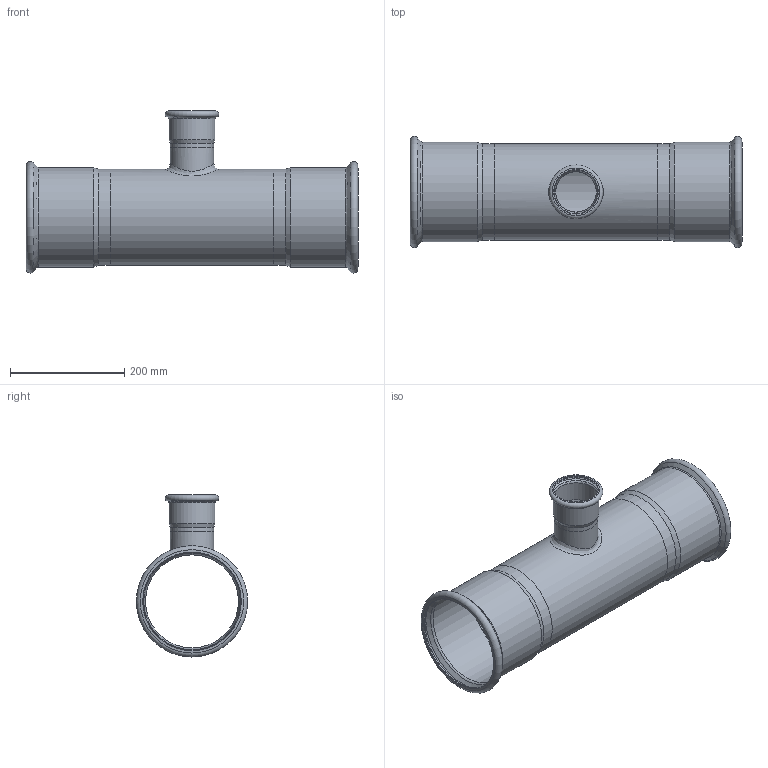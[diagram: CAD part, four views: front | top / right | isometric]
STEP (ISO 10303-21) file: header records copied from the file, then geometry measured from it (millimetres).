
FILE_DESCRIPTION((''),'2;1');
FILE_NAME('G:\Nirosan-Schmiedefeld\Technics\CAD\001 Serie 9.000\169_va\6913016876168H(0).stp','2020-10-06T09:38:00',('herberg'),(''),'Autodesk Inventor 2009','Autodesk Inventor 2009','');
FILE_SCHEMA(('AUTOMOTIVE_DESIGN { 1 0 10303 214 1 1 1 1 }'));
Length unit declared in the file: millimetre
Products named in the file (4): 6913016876168H(0); 6913016876168P(0); 69HM168P(0); 69HM76P(0)
Assembly tree (4 placements, depth 2):
  6913016876168H(0)
    6913016876168P(0)
    69HM168P(0)  x2
    69HM76P(0)
Bounding box: 582 x 195.18 x 284.09 mm (x, y, z)
Volume: 885324 mm3; surface area: 699096.9 mm2
Topology: 4 solids, 4 shells, 59 faces, 114 edges, 63 vertices
Faces by surface type: cone 20, cylinder 17, bspline 8, plane 8, torus 6
Full cylindrical faces by diameter (mm): 70.9 x1, 72.1 x1, 76.1 x2, 76.6 x1, 78 x1, 80.6 x1, 163.1 x3, 168.3 x3, 169.3 x2, 174.5 x2
Entity records: 3473 total; most frequent: CARTESIAN_POINT 2639, DIRECTION 168, ORIENTED_EDGE 90, AXIS2_PLACEMENT_3D 84, EDGE_LOOP 84, EDGE_CURVE 45, VERTEX_POINT 43, FACE_OUTER_BOUND 42
